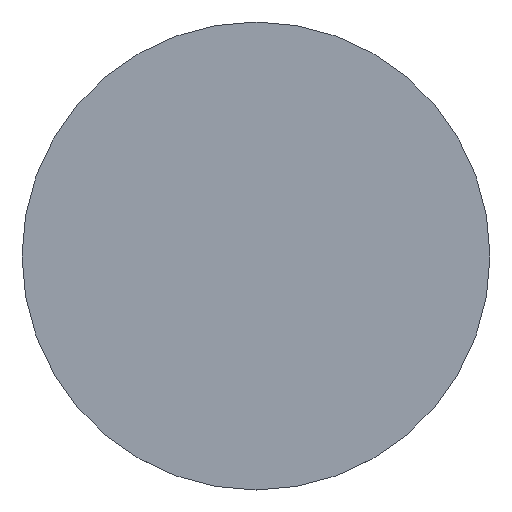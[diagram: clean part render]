
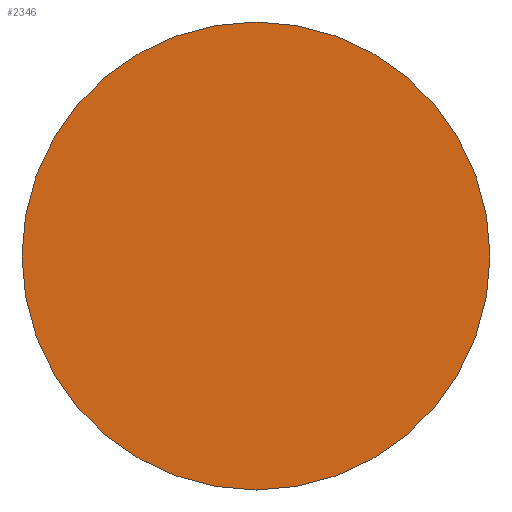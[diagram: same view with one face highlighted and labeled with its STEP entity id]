
A CAD part, top view. The second image highlights one B-rep face of the part: STEP entity #2346.
In plain terms, the highlighted planar face has unit normal (0, 0, 1).
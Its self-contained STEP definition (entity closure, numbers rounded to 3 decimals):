
#992=ORIENTED_EDGE('',*,*,#1269,.F.);
#1269=EDGE_CURVE('',#1459,#1459,#1609,.T.);
#1459=VERTEX_POINT('',#4197);
#1609=CIRCLE('',#2752,700.);
#1866=EDGE_LOOP('',(#992));
#2123=FACE_BOUND('',#1866,.T.);
#2181=PLANE('',#2754);
#2346=ADVANCED_FACE('',(#2123),#2181,.F.);
#2752=AXIS2_PLACEMENT_3D('',#4196,#3543,#3544);
#2754=AXIS2_PLACEMENT_3D('',#4200,#3547,#3548);
#3543=DIRECTION('',(0.,0.,-1.));
#3544=DIRECTION('',(1.,0.,0.));
#3547=DIRECTION('',(0.,0.,-1.));
#3548=DIRECTION('',(-1.,0.,0.));
#4196=CARTESIAN_POINT('',(0.,0.,5.));
#4197=CARTESIAN_POINT('',(700.,0.,5.));
#4200=CARTESIAN_POINT('',(0.,0.,5.));
